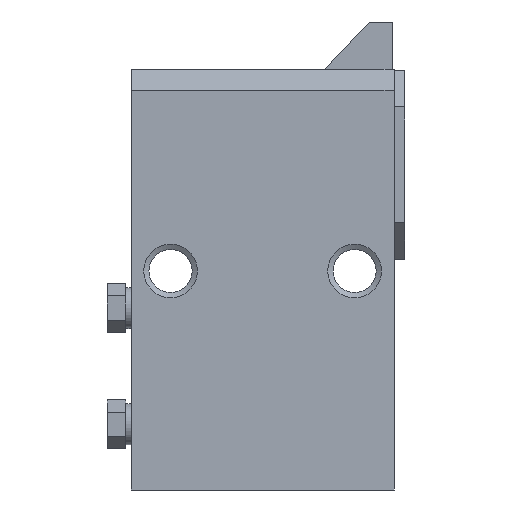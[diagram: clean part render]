
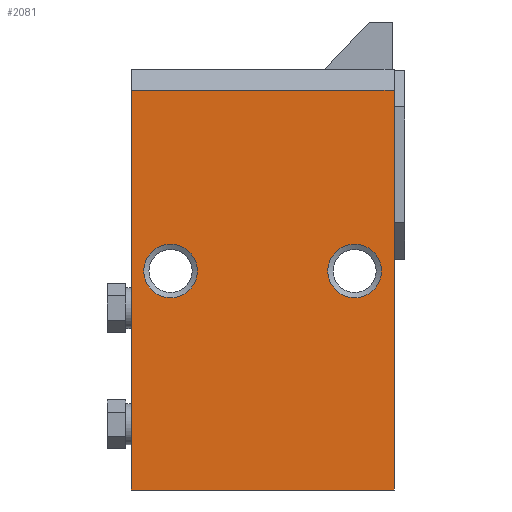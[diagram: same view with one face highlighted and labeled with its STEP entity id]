
A CAD part, left-side view. The second image highlights one B-rep face of the part: STEP entity #2081.
In plain terms, the highlighted planar face has unit normal (-1, 0, 0).
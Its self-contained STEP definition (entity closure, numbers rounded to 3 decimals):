
#25=LINE('',#3035,#209);
#42=LINE('',#3087,#226);
#73=LINE('',#3213,#257);
#85=LINE('',#3232,#269);
#209=VECTOR('',#2457,76.);
#226=VECTOR('',#2494,76.);
#257=VECTOR('',#2617,50.);
#269=VECTOR('',#2635,50.);
#412=PLANE('',#2262);
#512=FACE_BOUND('',#738,.T.);
#513=FACE_BOUND('',#739,.T.);
#575=FACE_OUTER_BOUND('',#737,.T.);
#737=EDGE_LOOP('',(#1522,#1523,#1524,#1525));
#738=EDGE_LOOP('',(#1526));
#739=EDGE_LOOP('',(#1527));
#867=CIRCLE('',#2234,5.1);
#870=CIRCLE('',#2239,5.1);
#936=VERTEX_POINT('',#3032);
#937=VERTEX_POINT('',#3034);
#961=VERTEX_POINT('',#3085);
#962=VERTEX_POINT('',#3086);
#978=VERTEX_POINT('',#3128);
#981=VERTEX_POINT('',#3136);
#1124=EDGE_CURVE('',#936,#937,#25,.T.);
#1149=EDGE_CURVE('',#961,#962,#42,.T.);
#1166=EDGE_CURVE('',#978,#978,#867,.T.);
#1169=EDGE_CURVE('',#981,#981,#870,.T.);
#1204=EDGE_CURVE('',#937,#961,#73,.T.);
#1216=EDGE_CURVE('',#936,#962,#85,.T.);
#1522=ORIENTED_EDGE('',*,*,#1124,.F.);
#1523=ORIENTED_EDGE('',*,*,#1216,.T.);
#1524=ORIENTED_EDGE('',*,*,#1149,.F.);
#1525=ORIENTED_EDGE('',*,*,#1204,.F.);
#1526=ORIENTED_EDGE('',*,*,#1169,.F.);
#1527=ORIENTED_EDGE('',*,*,#1166,.F.);
#2081=ADVANCED_FACE('',(#575,#512,#513),#412,.T.);
#2234=AXIS2_PLACEMENT_3D('',#3129,#2540,#2541);
#2239=AXIS2_PLACEMENT_3D('',#3137,#2550,#2551);
#2262=AXIS2_PLACEMENT_3D('',#3231,#2633,#2634);
#2457=DIRECTION('',(0.,0.,-1.));
#2494=DIRECTION('',(0.,0.,1.));
#2540=DIRECTION('center_axis',(-1.,0.,0.));
#2541=DIRECTION('ref_axis',(0.,-1.,0.));
#2550=DIRECTION('center_axis',(-1.,0.,0.));
#2551=DIRECTION('ref_axis',(0.,-1.,0.));
#2617=DIRECTION('',(0.,1.,0.));
#2633=DIRECTION('center_axis',(-1.,0.,0.));
#2634=DIRECTION('ref_axis',(0.,-1.,0.));
#2635=DIRECTION('',(0.,1.,0.));
#3032=CARTESIAN_POINT('',(-20.,-25.,34.35));
#3034=CARTESIAN_POINT('',(-20.,-25.,-41.65));
#3035=CARTESIAN_POINT('',(-20.,-25.,34.35));
#3085=CARTESIAN_POINT('',(-20.,25.,-41.65));
#3086=CARTESIAN_POINT('',(-20.,25.,34.35));
#3087=CARTESIAN_POINT('',(-20.,25.,-41.65));
#3128=CARTESIAN_POINT('',(-20.,12.4,0.));
#3129=CARTESIAN_POINT('Origin',(-20.,17.5,0.));
#3136=CARTESIAN_POINT('',(-20.,-22.6,0.));
#3137=CARTESIAN_POINT('Origin',(-20.,-17.5,0.));
#3213=CARTESIAN_POINT('',(-20.,-25.,-41.65));
#3231=CARTESIAN_POINT('Origin',(-20.,-25.,38.35));
#3232=CARTESIAN_POINT('',(-20.,-25.,34.35));
